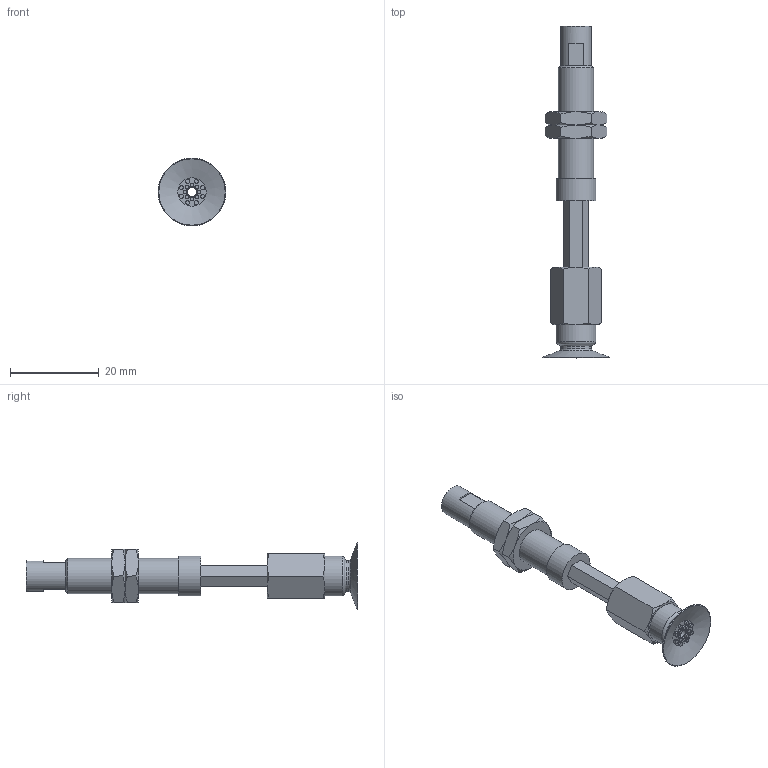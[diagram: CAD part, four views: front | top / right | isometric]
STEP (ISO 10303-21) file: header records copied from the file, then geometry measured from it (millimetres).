
FILE_DESCRIPTION(('STEP AP203'),'1');
FILE_NAME('.stp','2025-08-21T07:58:25',(' '),(' '),'Spatial InterOp 3D',' ',' ');
FILE_SCHEMA(('CONFIG_CONTROL_DESIGN'));
Length unit declared in the file: millimetre
Products named in the file (6): BNABPATH-15A-15-※; NAPATH-10A-15--F; Nut-10A-S; BPAG-15A-※; ADAPTER; NAPATH-10A-15--M
Assembly tree (6 placements, depth 2):
  BNABPATH-15A-15-※
    NAPATH-10A-15--F
    Nut-10A-S  x2
    BPAG-15A-※
    ADAPTER
    NAPATH-10A-15--M
Bounding box: 15.3 x 75 x 15.3 mm (x, y, z)
Volume: 3959.2 mm3; surface area: 4924.3 mm2
Topology: 6 solids, 6 shells, 154 faces, 311 edges, 192 vertices
Faces by surface type: plane 69, cone 45, cylinder 31, torus 9
Full cylindrical faces by diameter (mm): 0.9 x16, 2 x3, 4 x2, 4.134 x1, 6 x2, 7 x2, 7.188 x2, 8 x1, 9 x2
Entity records: 3600 total; most frequent: CARTESIAN_POINT 790, DIRECTION 538, ORIENTED_EDGE 416, AXIS2_PLACEMENT_3D 240, EDGE_LOOP 210, EDGE_CURVE 208, FACE_OUTER_BOUND 170, VERTEX_POINT 156
